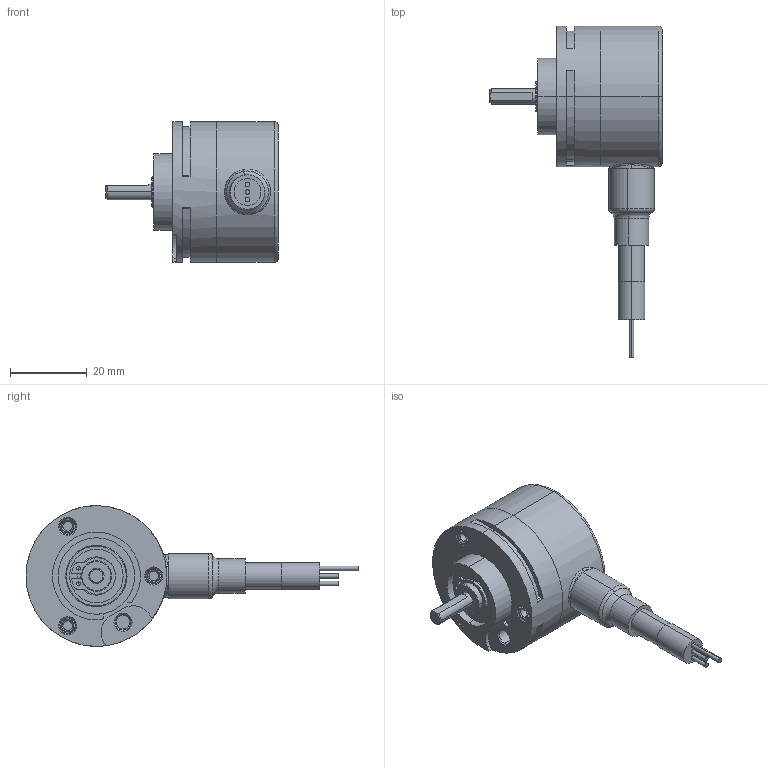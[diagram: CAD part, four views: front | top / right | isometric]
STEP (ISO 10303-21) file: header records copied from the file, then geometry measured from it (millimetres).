
FILE_DESCRIPTION (( 'STEP AP214' ), '1' );
FILE_NAME ('3700.11X2.XXXX.STEP', '2008-11-21T13:22:11', ( 'admin' ), ( 'Fritz Kübler GmbH' ), 'SwSTEP 2.0', 'SolidWorks 2008', '' );
FILE_SCHEMA (( 'AUTOMOTIVE_DESIGN' ));
Length unit declared in the file: millimetre
Products named in the file (1): 3700.11X2.XXXX
Bounding box: 45 x 86.8 x 36.8 mm (x, y, z)
Volume: 15716.4 mm3; surface area: 18279.5 mm2
Topology: 10 solids, 11 shells, 1126 faces, 2999 edges, 1882 vertices
Faces by surface type: cylinder 354, plane 353, bspline 173, torus 124, cone 81, sphere 41
Entity records: 52840 total; most frequent: CARTESIAN_POINT 15157, ORIENTED_EDGE 5872, DIRECTION 4932, EDGE_CURVE 2936, AXIS2_PLACEMENT_3D 2187, VERTEX_POINT 1848, CIRCLE 1233, EDGE_LOOP 1178
